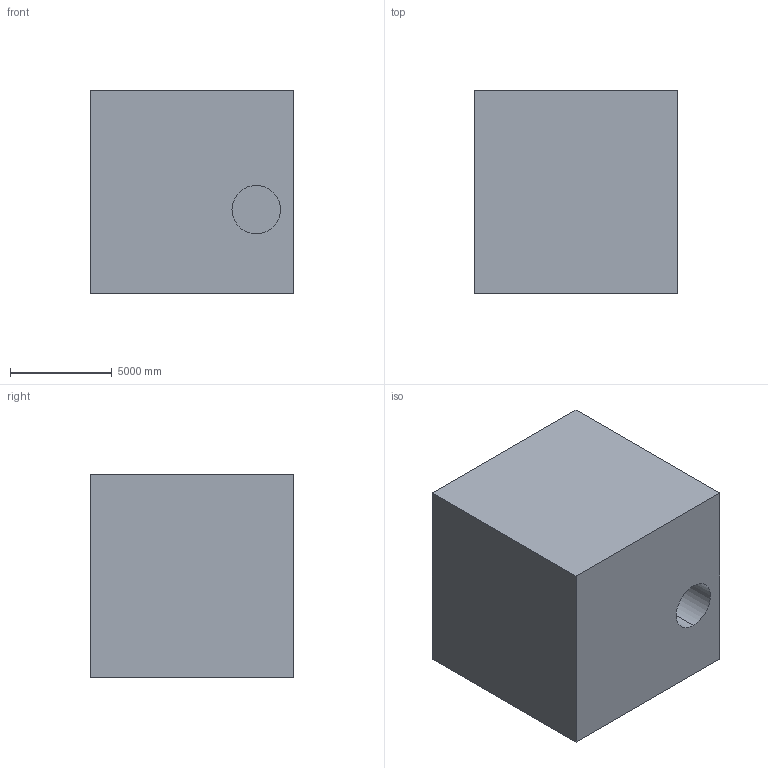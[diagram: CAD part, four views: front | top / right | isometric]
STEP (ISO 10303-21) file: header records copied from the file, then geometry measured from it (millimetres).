
FILE_DESCRIPTION (( 'STEP AP203' ), '1' );
FILE_NAME ('1186.STEP', '2022-08-18T13:05:58', ( 'user' ), ( '' ), 'SwSTEP 2.0', 'SolidWorks 2021', '' );
FILE_SCHEMA (( 'CONFIG_CONTROL_DESIGN' ));
Length unit declared in the file: centimetre
Products named in the file (1): 1186
Bounding box: 10000 x 10000 x 10000 mm (x, y, z)
Volume: 906346459850.5 mm3; surface area: 727476056.3 mm2
Topology: 1 solids, 1 shells, 12 faces, 30 edges, 20 vertices
Faces by surface type: plane 8, cylinder 4
Entity records: 695 total; most frequent: CARTESIAN_POINT 323, ORIENTED_EDGE 60, DIRECTION 60, EDGE_CURVE 30, AXIS2_PLACEMENT_3D 21, VERTEX_POINT 20, VECTOR 18, LINE 18
